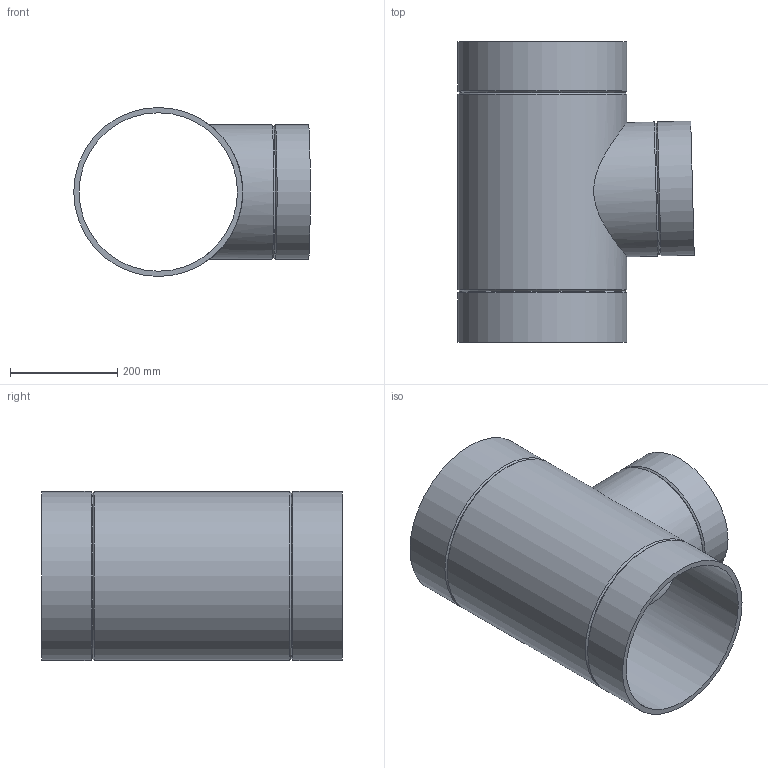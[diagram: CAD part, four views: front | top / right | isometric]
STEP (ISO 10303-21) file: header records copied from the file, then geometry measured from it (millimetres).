
FILE_DESCRIPTION(/* description */ (''),/* implementation_level */ '2;1');
FILE_NAME(/* name */ 'Z:\Geberit\Export\NewStep\372197.stp',/* time_stamp */ '2014-04-02T08:06:44+02:00',/* author */ ('nelson'),/* organization */ (''),/* preprocessor_version */ 'ST-DEVELOPER v15.2',/* originating_system */ 'Autodesk Inventor 2014',/* authorisation */ '');
FILE_SCHEMA (('AUTOMOTIVE_DESIGN { 1 0 10303 214 3 1 1 }'));
Length unit declared in the file: millimetre
Products named in the file (1): 372197
Bounding box: 440.68 x 560 x 315 mm (x, y, z)
Volume: 5652708.5 mm3; surface area: 1239726.9 mm2
Topology: 1 solids, 1 shells, 16 faces, 37 edges, 23 vertices
Faces by surface type: cylinder 7, cone 6, plane 3
Full cylindrical faces by diameter (mm): 234.4 x1, 250 x2, 295.4 x1, 315 x3
Entity records: 519 total; most frequent: CARTESIAN_POINT 197, DIRECTION 64, EDGE_LOOP 34, ORIENTED_EDGE 34, AXIS2_PLACEMENT_3D 32, FACE_BOUND 22, VERTEX_POINT 17, EDGE_CURVE 17
